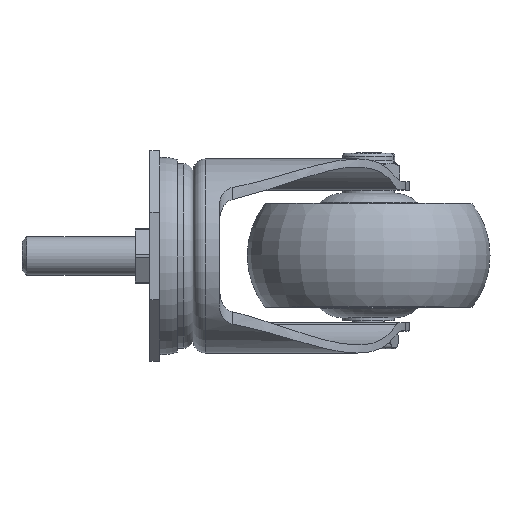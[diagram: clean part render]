
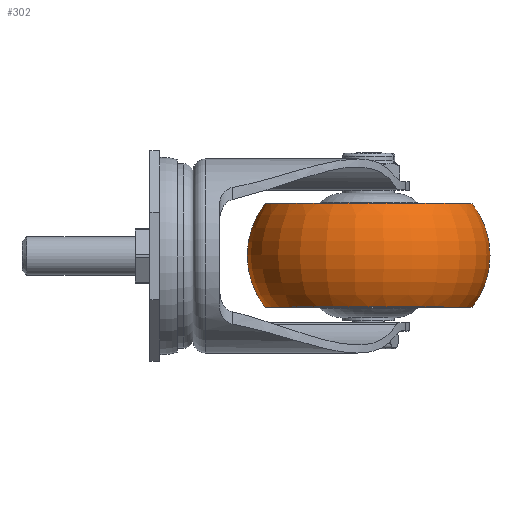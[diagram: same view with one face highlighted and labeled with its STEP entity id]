
A CAD part, left-side view. The second image highlights one B-rep face of the part: STEP entity #302.
In plain terms, the highlighted toroidal (fillet/blend) face has major radius 11.477 mm and minor radius 26.023 mm.
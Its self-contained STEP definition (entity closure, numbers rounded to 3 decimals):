
#139 = VERTEX_POINT ( 'NONE', #3959 ) ;
#141 = EDGE_CURVE ( 'NONE', #190, #139, #3982, .T. ) ;
#190 = VERTEX_POINT ( 'NONE', #4166 ) ;
#195 = VERTEX_POINT ( 'NONE', #4150 ) ;
#196 = VERTEX_POINT ( 'NONE', #4149 ) ;
#207 = EDGE_CURVE ( 'NONE', #195, #196, #4087, .T. ) ;
#298 = EDGE_CURVE ( 'NONE', #195, #190, #4361, .T. ) ;
#302 = ADVANCED_FACE ( 'NONE', ( #4252 ), #4251, .T. ) ;
#303 = EDGE_LOOP ( 'NONE', ( #304, #305, #306, #346 ) ) ;
#304 = ORIENTED_EDGE ( 'NONE', *, *, #207, .F. ) ;
#305 = ORIENTED_EDGE ( 'NONE', *, *, #298, .T. ) ;
#306 = ORIENTED_EDGE ( 'NONE', *, *, #141, .T. ) ;
#346 = ORIENTED_EDGE ( 'NONE', *, *, #347, .F. ) ;
#347 = EDGE_CURVE ( 'NONE', #196, #139, #4396, .T. ) ;
#3959 = CARTESIAN_POINT ( 'NONE',  ( 0., -16., -32. ) ) ;
#3978 = DIRECTION ( 'NONE',  ( 0., 0., 1. ) ) ;
#3979 = DIRECTION ( 'NONE',  ( -1., 0., 0. ) ) ;
#3980 = CARTESIAN_POINT ( 'NONE',  ( 0., 0., -11.477 ) ) ;
#3981 = AXIS2_PLACEMENT_3D ( 'NONE', #3980, #3979, #3978 ) ;
#3982 = CIRCLE ( 'NONE', #3981, 26.023 ) ;
#4083 = DIRECTION ( 'NONE',  ( 0., 0., -1. ) ) ;
#4084 = DIRECTION ( 'NONE',  ( 1., 0., 0. ) ) ;
#4085 = CARTESIAN_POINT ( 'NONE',  ( 0., 0., 11.477 ) ) ;
#4086 = AXIS2_PLACEMENT_3D ( 'NONE', #4085, #4084, #4083 ) ;
#4087 = CIRCLE ( 'NONE', #4086, 26.023 ) ;
#4149 = CARTESIAN_POINT ( 'NONE',  ( 0., -16., 32. ) ) ;
#4150 = CARTESIAN_POINT ( 'NONE',  ( 0., 16., 32. ) ) ;
#4166 = CARTESIAN_POINT ( 'NONE',  ( 0., 16., -32. ) ) ;
#4246 = DIRECTION ( 'NONE',  ( 0., 0., -1. ) ) ;
#4247 = DIRECTION ( 'NONE',  ( 0., -1., 0. ) ) ;
#4248 = CARTESIAN_POINT ( 'NONE',  ( 0., 0., 0. ) ) ;
#4249 = AXIS2_PLACEMENT_3D ( 'NONE', #4248, #4247, #4246 ) ;
#4251 = TOROIDAL_SURFACE ( 'NONE', #4249, 11.477, 26.023 ) ;
#4252 = FACE_OUTER_BOUND ( 'NONE', #303, .T. ) ;
#4253 = DIRECTION ( 'NONE',  ( 0., 0., -1. ) ) ;
#4254 = DIRECTION ( 'NONE',  ( 0., -1., 0. ) ) ;
#4255 = AXIS2_PLACEMENT_3D ( 'NONE', #4362, #4254, #4253 ) ;
#4361 = CIRCLE ( 'NONE', #4255, 32. ) ;
#4362 = CARTESIAN_POINT ( 'NONE',  ( 0., 16., 0. ) ) ;
#4388 = DIRECTION ( 'NONE',  ( 0., 0., -1. ) ) ;
#4389 = DIRECTION ( 'NONE',  ( 0., -1., 0. ) ) ;
#4390 = CARTESIAN_POINT ( 'NONE',  ( 0., -16., 0. ) ) ;
#4391 = AXIS2_PLACEMENT_3D ( 'NONE', #4390, #4389, #4388 ) ;
#4396 = CIRCLE ( 'NONE', #4391, 32. ) ;
